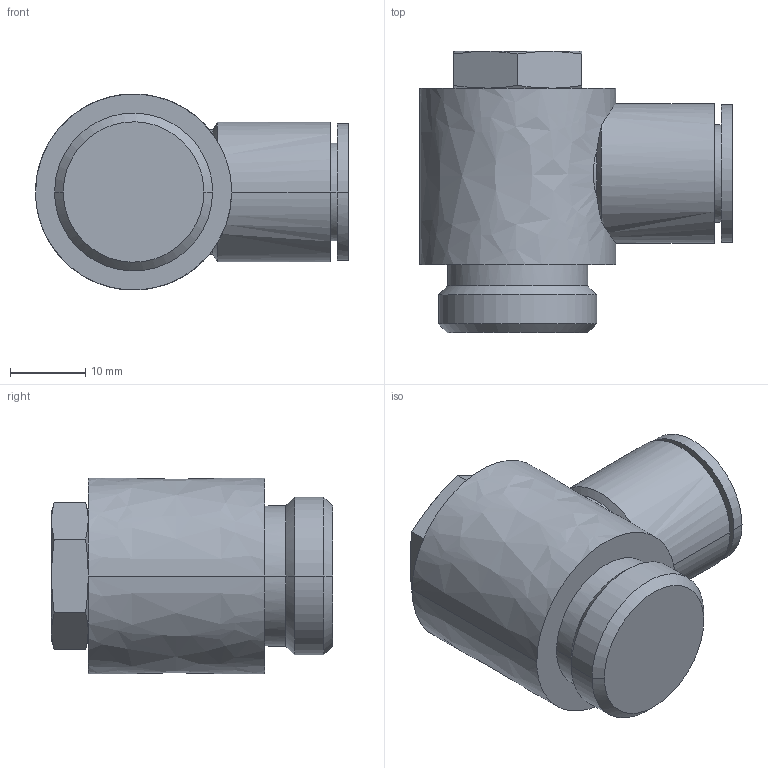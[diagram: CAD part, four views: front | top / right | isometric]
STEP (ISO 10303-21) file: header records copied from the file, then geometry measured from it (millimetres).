
FILE_DESCRIPTION (( 'STEP AP214' ), '1' );
FILE_NAME ('KQ2V12-G04A.STEP', '2023-03-09T03:03:13', ( 'Windows User' ), ( 'P R C' ), 'SwSTEP 2.0', 'SolidWorks 2019', '' );
FILE_SCHEMA (( 'AUTOMOTIVE_DESIGN' ));
Length unit declared in the file: millimetre
Products named in the file (1): KQ2V12-G04A
Bounding box: 41.5 x 37.3 x 26 mm (x, y, z)
Volume: 18788.5 mm3; surface area: 5813.2 mm2
Topology: 1 solids, 1 shells, 41 faces, 93 edges, 60 vertices
Faces by surface type: bspline 26, plane 15
Entity records: 1843 total; most frequent: CARTESIAN_POINT 1201, ORIENTED_EDGE 186, EDGE_CURVE 93, B_SPLINE_CURVE_WITH_KNOTS 67, VERTEX_POINT 60, EDGE_LOOP 47, ADVANCED_FACE 41, FACE_OUTER_BOUND 41
